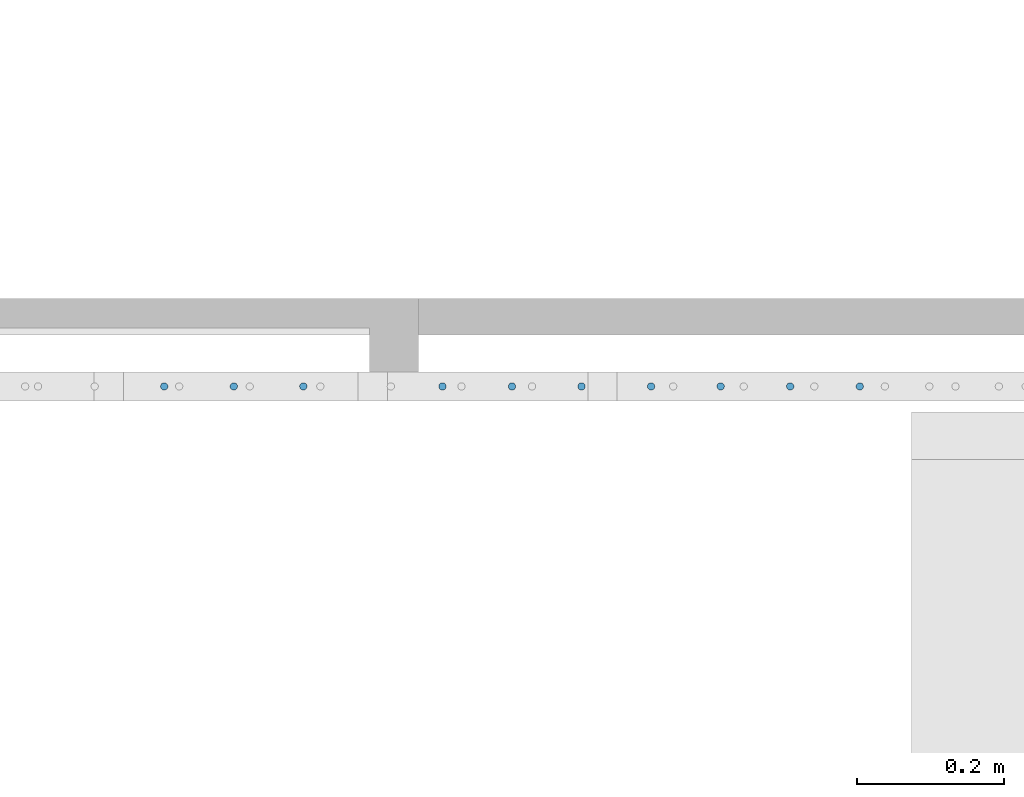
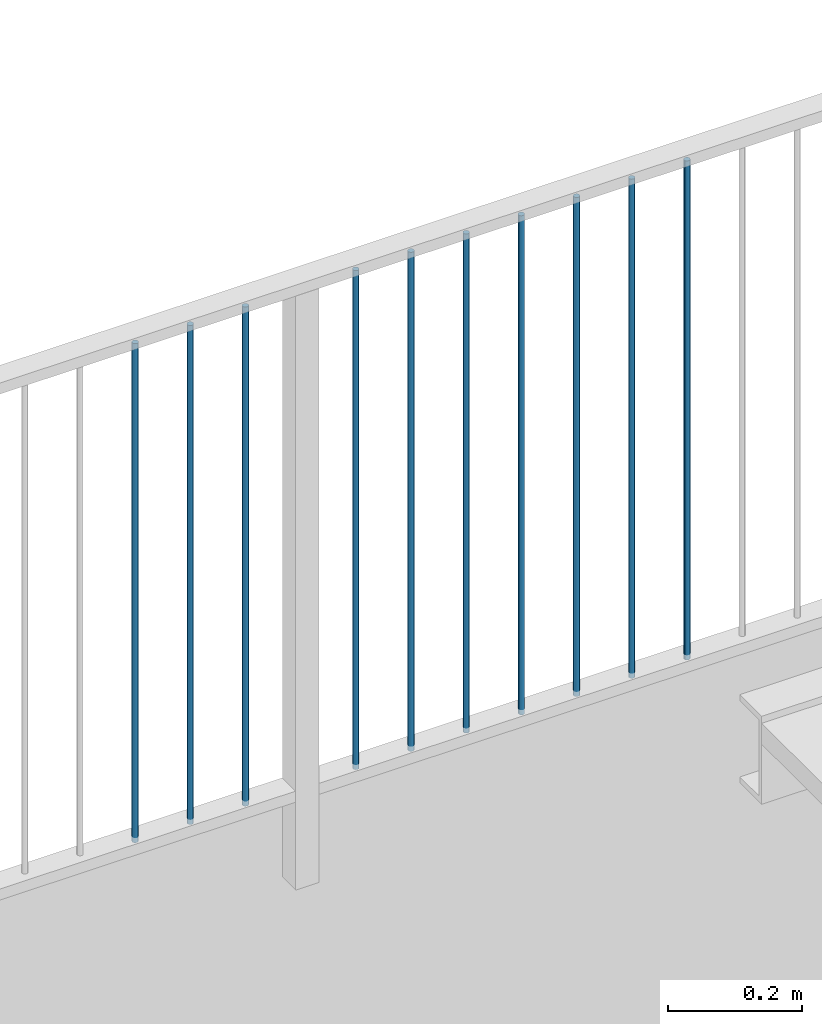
# One storey, part 27 of 135: 10 members, 1 element without a shape of its own.
"""IFC2X3 building model written with IfcOpenShell, lengths in millimetres."""

from ifc_helpers import new_model, entity, si_unit, converted_unit, derived_unit, money_unit, direction, frame, origin_with_axes, place, context, subcontext, project, spatial, faceted_brep, source, transform, mapped, material, type_object, type_shapes, element, aggregate, save


model = new_model("IFC2X3")

# Units and contexts
model_context = context("Model", 3, precision=0.01, world=origin_with_axes(), true_north=direction((0.0, 1.0)))
body_context = subcontext(model_context, "Body", "Model", "MODEL_VIEW")
ifc_project = project(units=[si_unit("LENGTHUNIT", "METRE", prefix="MILLI"), si_unit("AREAUNIT", "SQUARE_METRE"), si_unit("VOLUMEUNIT", "CUBIC_METRE"), converted_unit("PLANEANGLEUNIT", "DEGREE", entity("IfcPlaneAngleMeasure", 0.0174532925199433), si_unit("PLANEANGLEUNIT", "RADIAN"), dimensions=[0, 0, 0, 0, 0, 0, 0]), money_unit("EUR"), converted_unit("TIMEUNIT", "Year", entity("IfcTimeMeasure", 31557600.0), si_unit("TIMEUNIT", "SECOND"), dimensions=[0, 0, 1, 0, 0, 0, 0]), si_unit("MASSUNIT", "GRAM", prefix="KILO"), si_unit("THERMODYNAMICTEMPERATUREUNIT", "DEGREE_CELSIUS"), si_unit("LUMINOUSINTENSITYUNIT", "LUMEN"), si_unit("ENERGYUNIT", "JOULE", prefix="MEGA"), derived_unit("THERMALCONDUCTANCEUNIT", [(si_unit("POWERUNIT", "WATT"), 1), (si_unit("LENGTHUNIT", "METRE"), -1), (si_unit("THERMODYNAMICTEMPERATUREUNIT", "KELVIN"), -1)]), derived_unit("SPECIFICHEATCAPACITYUNIT", [(si_unit("ENERGYUNIT", "JOULE"), 1), (si_unit("MASSUNIT", "GRAM", prefix="KILO"), -1), (si_unit("THERMODYNAMICTEMPERATUREUNIT", "KELVIN"), -1)]), derived_unit("MASSDENSITYUNIT", [(si_unit("MASSUNIT", "GRAM", prefix="KILO"), 1), (si_unit("VOLUMEUNIT", "CUBIC_METRE"), -1)])], contexts=[model_context])

# Site, building, storey
site_placement = place(None, origin_with_axes())
site = spatial("IfcSite", under=ifc_project, at=site_placement, Name="Site", CompositionType="ELEMENT")
building_placement = place(site_placement, origin_with_axes())
building = spatial("IfcBuilding", under=site, at=building_placement, Name="Naam gebouw", CompositionType="ELEMENT")
storey_placement = place(building_placement, origin_with_axes())
storey = spatial("IfcBuildingStorey", under=building, at=storey_placement, Name="Begane grond N", CompositionType="ELEMENT", Elevation=0.0)

# Railing, members
railing_type = type_object("IfcRailingType", Name="Railing Type", PredefinedType="NOTDEFINED")
railing_placement = place(storey_placement, frame((56236.62159597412, 21185.9124251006, 157.4646725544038), z_axis=(0.0, 0.0, 1.0), x_axis=(1.0, 0.0, 0.0)))
railing = element("IfcRailing", 1, at=railing_placement, inside=storey, type_object=railing_type, Name="_Reling-x", PredefinedType="NOTDEFINED")
ifc_material = material(Name="Metaal - Staal C")
member_type = type_object("IfcMemberType", Name="IfcMember", PredefinedType="MEMBER")
shared_shape = source(origin_with_axes(), body_context, "Body", "Brep", [
    faceted_brep([(0.0, -5.0, 0.0), (0.8682408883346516, -4.92403876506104, 0.0), (0.868240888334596, -4.92403876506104, 907.5000000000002), (0.0, -5.0, 907.5000000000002), (-0.868240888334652, -4.92403876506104, 0.0), (-1.710100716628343, -4.698463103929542, 0.0), (-2.500000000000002, -4.330127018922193, 0.0), (-3.213938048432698, -3.830222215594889, 0.0), (-3.830222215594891, -3.213938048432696, 0.0), (-4.330127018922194, -2.5, 0.0), (-4.698463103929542, -1.710100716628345, 0.0), (-4.924038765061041, -0.86824088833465, 0.0), (-5.0, 0.0, 0.0), (-4.92403876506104, 0.8682408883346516, 0.0), (-4.698463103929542, 1.710100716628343, 0.0), (-4.330127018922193, 2.500000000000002, 0.0), (-3.83022221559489, 3.213938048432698, 0.0), (-3.213938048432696, 3.83022221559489, 0.0), (-2.5, 4.330127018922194, 0.0), (-1.710100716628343, 4.698463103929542, 0.0), (-0.8682408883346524, 4.92403876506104, 0.0), (0.0, 5.0, 0.0), (0.8682408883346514, 4.92403876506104, 0.0), (1.710100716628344, 4.698463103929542, 0.0), (2.5, 4.330127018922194, 0.0), (3.213938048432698, 3.83022221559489, 0.0), (3.83022221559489, 3.213938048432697, 0.0), (4.330127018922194, 2.499999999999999, 0.0), (4.698463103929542, 1.710100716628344, 0.0), (4.92403876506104, 0.8682408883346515, 0.0), (5.0, 0.0, 0.0), (4.92403876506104, -0.8682408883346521, 0.0), (4.698463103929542, -1.710100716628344, 0.0), (4.330127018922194, -2.5, 0.0), (3.83022221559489, -3.213938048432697, 0.0), (3.213938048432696, -3.83022221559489, 0.0), (2.5, -4.330127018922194, 0.0), (1.710100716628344, -4.698463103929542, 0.0), (1.710100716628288, -4.698463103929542, 907.5000000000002), (2.499999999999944, -4.330127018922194, 907.5000000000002), (3.213938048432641, -3.83022221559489, 907.5000000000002), (3.830222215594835, -3.213938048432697, 907.5000000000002), (4.330127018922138, -2.5, 907.5000000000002), (4.698463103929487, -1.710100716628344, 907.5000000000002), (4.924038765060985, -0.8682408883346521, 907.5000000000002), (4.999999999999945, 0.0, 907.5000000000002), (4.924038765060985, 0.8682408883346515, 907.5000000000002), (4.698463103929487, 1.710100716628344, 907.5000000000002), (4.330127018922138, 2.499999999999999, 907.5000000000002), (3.830222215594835, 3.213938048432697, 907.5000000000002), (3.213938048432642, 3.83022221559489, 907.5000000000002), (2.499999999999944, 4.330127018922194, 907.5000000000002), (1.710100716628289, 4.698463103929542, 907.5000000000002), (0.8682408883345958, 4.92403876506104, 907.5000000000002), (0.0, 5.0, 907.5000000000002), (-0.868240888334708, 4.92403876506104, 907.5000000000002), (-1.710100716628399, 4.698463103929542, 907.5000000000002), (-2.500000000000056, 4.330127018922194, 907.5000000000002), (-3.213938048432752, 3.83022221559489, 907.5000000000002), (-3.830222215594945, 3.213938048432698, 907.5000000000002), (-4.330127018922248, 2.500000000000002, 907.5000000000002), (-4.698463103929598, 1.710100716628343, 907.5000000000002), (-4.924038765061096, 0.8682408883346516, 907.5000000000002), (-5.000000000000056, 0.0, 907.5000000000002), (-4.924038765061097, -0.86824088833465, 907.5000000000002), (-4.698463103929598, -1.710100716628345, 907.5000000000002), (-4.330127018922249, -2.5, 907.5000000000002), (-3.830222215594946, -3.213938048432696, 907.5000000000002), (-3.213938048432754, -3.830222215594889, 907.5000000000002), (-2.500000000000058, -4.330127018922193, 907.5000000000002), (-1.710100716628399, -4.698463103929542, 907.5000000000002), (-0.8682408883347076, -4.92403876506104, 907.5000000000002)], [[[0, 1, 2, 3]], [[0, 4, 5, 6, 7, 8, 9, 10, 11, 12, 13, 14, 15, 16, 17, 18, 19, 20, 21, 22, 23, 24, 25, 26, 27, 28, 29, 30, 31, 32, 33, 34, 35, 36, 37, 1]], [[1, 37, 38, 2]], [[3, 2, 38, 39, 40, 41, 42, 43, 44, 45, 46, 47, 48, 49, 50, 51, 52, 53, 54, 55, 56, 57, 58, 59, 60, 61, 62, 63, 64, 65, 66, 67, 68, 69, 70, 71]], [[4, 0, 3, 71]], [[5, 4, 71, 70]], [[6, 5, 70, 69]], [[7, 6, 69, 68]], [[8, 7, 68, 67]], [[9, 8, 67, 66]], [[10, 9, 66, 65]], [[11, 10, 65, 64]], [[12, 11, 64, 63]], [[13, 12, 63, 62]], [[14, 13, 62, 61]], [[15, 14, 61, 60]], [[16, 15, 60, 59]], [[17, 16, 59, 58]], [[18, 17, 58, 57]], [[19, 18, 57, 56]], [[20, 19, 56, 55]], [[21, 20, 55, 54]], [[22, 21, 54, 53]], [[23, 22, 53, 52]], [[24, 23, 52, 51]], [[25, 24, 51, 50]], [[26, 25, 50, 49]], [[27, 26, 49, 48]], [[28, 27, 48, 47]], [[29, 28, 47, 46]], [[30, 29, 46, 45]], [[31, 30, 45, 44]], [[32, 31, 44, 43]], [[33, 32, 43, 42]], [[34, 33, 42, 41]], [[35, 34, 41, 40]], [[36, 35, 40, 39]], [[37, 36, 39, 38]]]),
])
type_shapes(member_type, [shared_shape])
member_1_placement = place(railing_placement, frame((-182.7480494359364, 2465.000000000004, 4075.163046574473), z_axis=(0.0, 0.0, 1.0), x_axis=(1.0, 0.0, 0.0)))
member_1 = element("IfcMember", 2, at=member_1_placement, type_object=member_type, material=ifc_material, Name="_Spijlen-x", ObjectType="MEMBER", context=body_context, shape_type="MappedRepresentation", body=[
    mapped(shared_shape, transform((0.0, 0.0, 0.0), x_axis=(0.0, 1.0, 0.0), y_axis=(-1.0, 0.0, 0.0), z_axis=(0.0, 0.0, 1.0))),
])
member_2_placement = place(railing_placement, frame((-277.6571095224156, 2465.000000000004, 4075.163046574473), z_axis=(0.0, 0.0, 1.0), x_axis=(1.0, 0.0, 0.0)))
member_2 = element("IfcMember", 3, at=member_2_placement, type_object=member_type, material=ifc_material, Name="_Spijlen-x", ObjectType="MEMBER", context=body_context, shape_type="MappedRepresentation", body=[
    mapped(shared_shape, transform((0.0, 0.0, 0.0), x_axis=(0.0, 1.0, 0.0), y_axis=(-1.0, 0.0, 0.0), z_axis=(0.0, 0.0, 1.0))),
])
member_3_placement = place(railing_placement, frame((-372.5661696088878, 2465.000000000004, 4075.163046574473), z_axis=(0.0, 0.0, 1.0), x_axis=(1.0, 0.0, 0.0)))
member_3 = element("IfcMember", 4, at=member_3_placement, type_object=member_type, material=ifc_material, Name="_Spijlen-x", ObjectType="MEMBER", context=body_context, shape_type="MappedRepresentation", body=[
    mapped(shared_shape, transform((0.0, 0.0, 0.0), x_axis=(0.0, 1.0, 0.0), y_axis=(-1.0, 0.0, 0.0), z_axis=(0.0, 0.0, 1.0))),
])
member_4_placement = place(railing_placement, frame((-467.475229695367, 2465.000000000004, 4075.163046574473), z_axis=(0.0, 0.0, 1.0), x_axis=(1.0, 0.0, 0.0)))
member_4 = element("IfcMember", 5, at=member_4_placement, type_object=member_type, material=ifc_material, Name="_Spijlen-x", ObjectType="MEMBER", context=body_context, shape_type="MappedRepresentation", body=[
    mapped(shared_shape, transform((0.0, 0.0, 0.0), x_axis=(0.0, 1.0, 0.0), y_axis=(-1.0, 0.0, 0.0), z_axis=(0.0, 0.0, 1.0))),
])
member_5_placement = place(railing_placement, frame((-562.3842897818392, 2465.000000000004, 4075.163046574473), z_axis=(0.0, 0.0, 1.0), x_axis=(1.0, 0.0, 0.0)))
member_5 = element("IfcMember", 6, at=member_5_placement, type_object=member_type, material=ifc_material, Name="_Spijlen-x", ObjectType="MEMBER", context=body_context, shape_type="MappedRepresentation", body=[
    mapped(shared_shape, transform((0.0, 0.0, 0.0), x_axis=(0.0, 1.0, 0.0), y_axis=(-1.0, 0.0, 0.0), z_axis=(0.0, 0.0, 1.0))),
])
member_6_placement = place(railing_placement, frame((-657.2933498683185, 2465.000000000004, 4075.163046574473), z_axis=(0.0, 0.0, 1.0), x_axis=(1.0, 0.0, 0.0)))
member_6 = element("IfcMember", 7, at=member_6_placement, type_object=member_type, material=ifc_material, Name="_Spijlen-x", ObjectType="MEMBER", context=body_context, shape_type="MappedRepresentation", body=[
    mapped(shared_shape, transform((0.0, 0.0, 0.0), x_axis=(0.0, 1.0, 0.0), y_axis=(-1.0, 0.0, 0.0), z_axis=(0.0, 0.0, 1.0))),
])
member_7_placement = place(railing_placement, frame((-752.2024099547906, 2465.000000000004, 4075.163046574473), z_axis=(0.0, 0.0, 1.0), x_axis=(1.0, 0.0, 0.0)))
member_7 = element("IfcMember", 8, at=member_7_placement, type_object=member_type, material=ifc_material, Name="_Spijlen-x", ObjectType="MEMBER", context=body_context, shape_type="MappedRepresentation", body=[
    mapped(shared_shape, transform((0.0, 0.0, 0.0), x_axis=(0.0, 1.0, 0.0), y_axis=(-1.0, 0.0, 0.0), z_axis=(0.0, 0.0, 1.0))),
])
member_8_placement = place(railing_placement, frame((-942.020530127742, 2465.000000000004, 4075.163046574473), z_axis=(0.0, 0.0, 1.0), x_axis=(1.0, 0.0, 0.0)))
member_8 = element("IfcMember", 9, at=member_8_placement, type_object=member_type, material=ifc_material, Name="_Spijlen-x", ObjectType="MEMBER", context=body_context, shape_type="MappedRepresentation", body=[
    mapped(shared_shape, transform((0.0, 0.0, 0.0), x_axis=(0.0, 1.0, 0.0), y_axis=(-1.0, 0.0, 0.0), z_axis=(0.0, 0.0, 1.0))),
])
member_9_placement = place(railing_placement, frame((-1036.929590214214, 2465.000000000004, 4075.163046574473), z_axis=(0.0, 0.0, 1.0), x_axis=(1.0, 0.0, 0.0)))
member_9 = element("IfcMember", 10, at=member_9_placement, type_object=member_type, material=ifc_material, Name="_Spijlen-x", ObjectType="MEMBER", context=body_context, shape_type="MappedRepresentation", body=[
    mapped(shared_shape, transform((0.0, 0.0, 0.0), x_axis=(0.0, 1.0, 0.0), y_axis=(-1.0, 0.0, 0.0), z_axis=(0.0, 0.0, 1.0))),
])
member_10_placement = place(railing_placement, frame((-1131.838650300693, 2465.000000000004, 4075.163046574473), z_axis=(0.0, 0.0, 1.0), x_axis=(1.0, 0.0, 0.0)))
member_10 = element("IfcMember", 11, at=member_10_placement, type_object=member_type, material=ifc_material, Name="_Spijlen-x", ObjectType="MEMBER", context=body_context, shape_type="MappedRepresentation", body=[
    mapped(shared_shape, transform((0.0, 0.0, 0.0), x_axis=(0.0, 1.0, 0.0), y_axis=(-1.0, 0.0, 0.0), z_axis=(0.0, 0.0, 1.0))),
])
aggregate(railing, [member_1, member_2, member_3, member_4, member_5, member_6, member_7, member_8, member_9, member_10])

save(model, "model.ifc")
